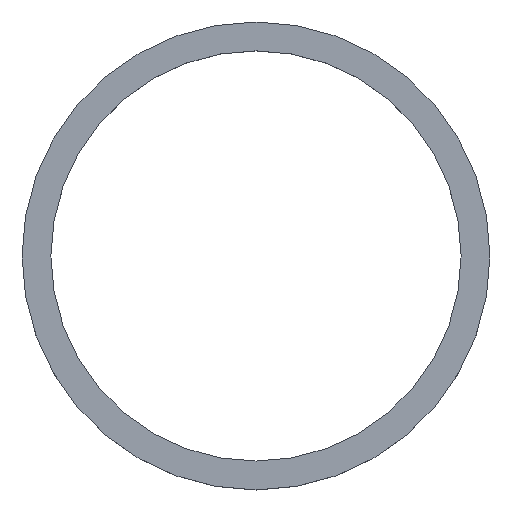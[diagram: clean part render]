
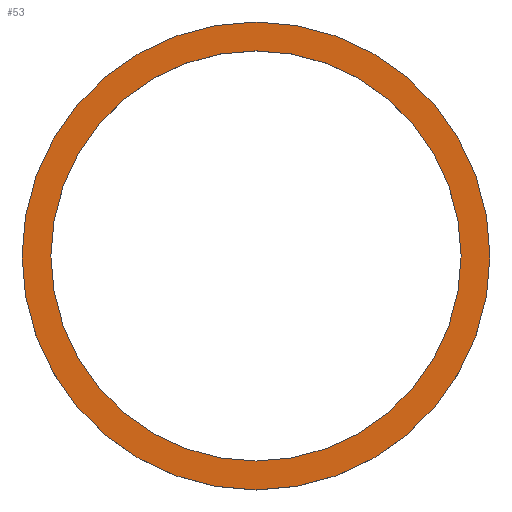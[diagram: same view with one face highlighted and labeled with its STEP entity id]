
A CAD part, top view. The second image highlights one B-rep face of the part: STEP entity #53.
In plain terms, the highlighted planar face has unit normal (0, 0, 1).
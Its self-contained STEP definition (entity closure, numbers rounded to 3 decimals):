
#46=PLANE('',#167);
#53=ADVANCED_FACE('',(#72,#73),#46,.T.);
#72=FACE_BOUND('',#92,.T.);
#73=FACE_BOUND('',#93,.T.);
#92=EDGE_LOOP('',(#112));
#93=EDGE_LOOP('',(#113));
#112=ORIENTED_EDGE('',*,*,#140,.T.);
#113=ORIENTED_EDGE('',*,*,#139,.F.);
#129=VERTEX_POINT('',#235);
#130=VERTEX_POINT('',#238);
#139=EDGE_CURVE('',#129,#129,#149,.T.);
#140=EDGE_CURVE('',#130,#130,#150,.T.);
#149=CIRCLE('',#164,7.7);
#150=CIRCLE('',#166,6.75);
#164=AXIS2_PLACEMENT_3D('',#234,#197,#198);
#166=AXIS2_PLACEMENT_3D('',#237,#201,#202);
#167=AXIS2_PLACEMENT_3D('',#239,#203,#204);
#197=DIRECTION('',(0.,0.,-1.));
#198=DIRECTION('',(-1.,0.,0.));
#201=DIRECTION('',(0.,0.,-1.));
#202=DIRECTION('',(-1.,0.,0.));
#203=DIRECTION('',(0.,0.,1.));
#204=DIRECTION('',(1.,0.,0.));
#234=CARTESIAN_POINT('',(0.,0.,1.26));
#235=CARTESIAN_POINT('',(-7.7,0.,1.26));
#237=CARTESIAN_POINT('',(0.,0.,1.26));
#238=CARTESIAN_POINT('',(-6.75,0.,1.26));
#239=CARTESIAN_POINT('',(7.7,0.,1.26));
